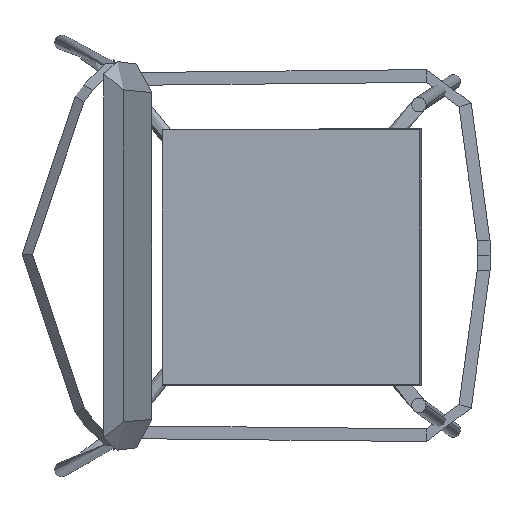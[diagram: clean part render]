
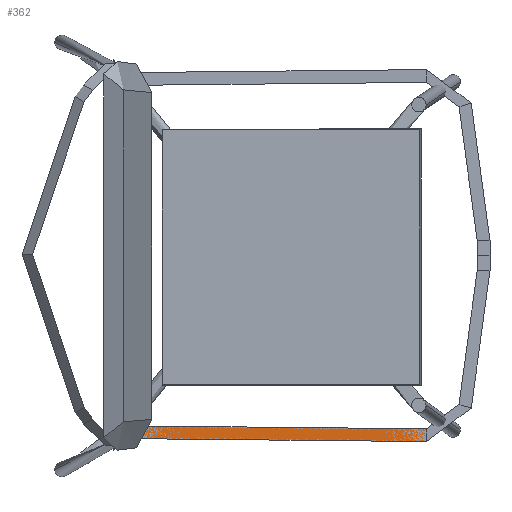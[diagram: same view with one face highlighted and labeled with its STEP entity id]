
A CAD part, top view. The second image highlights one B-rep face of the part: STEP entity #362.
In plain terms, the highlighted free-form (B-spline) face has degree [2, 3] with [5, 4] control points.
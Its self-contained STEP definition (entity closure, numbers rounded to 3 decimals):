
#143=(
BOUNDED_CURVE()
B_SPLINE_CURVE(2,(#10537,#10538,#10539,#10540,#10541),.UNSPECIFIED.,.F.,
 .F.)
B_SPLINE_CURVE_WITH_KNOTS((3,2,3),(0.,12.566,25.133),
 .UNSPECIFIED.)
CURVE()
GEOMETRIC_REPRESENTATION_ITEM()
RATIONAL_B_SPLINE_CURVE((1.,0.707,1.,0.707,1.))
REPRESENTATION_ITEM('')
);
#144=(
BOUNDED_CURVE()
B_SPLINE_CURVE(3,(#10542,#10543,#10544,#10545),.UNSPECIFIED.,.F.,.F.)
B_SPLINE_CURVE_WITH_KNOTS((4,4),(0.,365.279),.UNSPECIFIED.)
CURVE()
GEOMETRIC_REPRESENTATION_ITEM()
RATIONAL_B_SPLINE_CURVE((1.,1.,1.,1.))
REPRESENTATION_ITEM('')
);
#145=(
BOUNDED_CURVE()
B_SPLINE_CURVE(2,(#10546,#10547,#10548,#10549,#10550),.UNSPECIFIED.,.F.,
 .F.)
B_SPLINE_CURVE_WITH_KNOTS((3,2,3),(0.,12.566,25.133),
 .UNSPECIFIED.)
CURVE()
GEOMETRIC_REPRESENTATION_ITEM()
RATIONAL_B_SPLINE_CURVE((1.,0.707,1.,0.707,1.))
REPRESENTATION_ITEM('')
);
#166=(
BOUNDED_CURVE()
B_SPLINE_CURVE(3,(#10820,#10821,#10822,#10823),.UNSPECIFIED.,.F.,.F.)
B_SPLINE_CURVE_WITH_KNOTS((4,4),(0.,365.279),.UNSPECIFIED.)
CURVE()
GEOMETRIC_REPRESENTATION_ITEM()
RATIONAL_B_SPLINE_CURVE((1.,1.,1.,1.))
REPRESENTATION_ITEM('')
);
#254=(
BOUNDED_SURFACE()
B_SPLINE_SURFACE(2,3,((#10230,#10231,#10232,#10233),(#10234,#10235,#10236,
#10237),(#10238,#10239,#10240,#10241),(#10242,#10243,#10244,#10245),(#10246,
#10247,#10248,#10249)),.UNSPECIFIED.,.F.,.F.,.F.)
B_SPLINE_SURFACE_WITH_KNOTS((3,2,3),(4,4),(0.,12.566,25.133),
(0.,365.279),.UNSPECIFIED.)
GEOMETRIC_REPRESENTATION_ITEM()
RATIONAL_B_SPLINE_SURFACE(((1.,1.,1.,1.),(0.707,0.707,
0.707,0.707),(1.,1.,1.,1.),(0.707,0.707,
0.707,0.707),(1.,1.,1.,1.)))
REPRESENTATION_ITEM('')
SURFACE()
);
#362=ADVANCED_FACE('',(#462),#254,.T.);
#462=FACE_OUTER_BOUND('',#570,.T.);
#570=EDGE_LOOP('',(#986,#987,#988,#989));
#986=ORIENTED_EDGE('',*,*,#1233,.T.);
#987=ORIENTED_EDGE('',*,*,#1208,.F.);
#988=ORIENTED_EDGE('',*,*,#1207,.F.);
#989=ORIENTED_EDGE('',*,*,#1206,.T.);
#1206=EDGE_CURVE('',#1457,#1474,#143,.T.);
#1207=EDGE_CURVE('',#1457,#1458,#144,.T.);
#1208=EDGE_CURVE('',#1458,#1475,#145,.T.);
#1233=EDGE_CURVE('',#1474,#1475,#166,.T.);
#1457=VERTEX_POINT('',#10350);
#1458=VERTEX_POINT('',#10351);
#1474=VERTEX_POINT('',#10367);
#1475=VERTEX_POINT('',#10368);
#10230=CARTESIAN_POINT('',(27238.84,9976.489,-683.439));
#10231=CARTESIAN_POINT('',(27360.571,9975.287,-681.126));
#10232=CARTESIAN_POINT('',(27482.303,9974.087,-678.812));
#10233=CARTESIAN_POINT('',(27604.034,9972.886,-676.499));
#10234=CARTESIAN_POINT('',(27238.992,9976.489,-691.438));
#10235=CARTESIAN_POINT('',(27360.723,9975.287,-689.124));
#10236=CARTESIAN_POINT('',(27482.455,9974.087,-686.811));
#10237=CARTESIAN_POINT('',(27604.186,9972.886,-684.498));
#10238=CARTESIAN_POINT('',(27239.071,9984.489,-691.436));
#10239=CARTESIAN_POINT('',(27360.802,9983.287,-689.123));
#10240=CARTESIAN_POINT('',(27482.535,9982.087,-686.809));
#10241=CARTESIAN_POINT('',(27604.266,9980.886,-684.496));
#10242=CARTESIAN_POINT('',(27239.15,9992.489,-691.435));
#10243=CARTESIAN_POINT('',(27360.881,9991.286,-689.121));
#10244=CARTESIAN_POINT('',(27482.615,9990.087,-686.808));
#10245=CARTESIAN_POINT('',(27604.346,9988.886,-684.495));
#10246=CARTESIAN_POINT('',(27238.998,9992.489,-683.436));
#10247=CARTESIAN_POINT('',(27360.729,9991.286,-681.123));
#10248=CARTESIAN_POINT('',(27482.463,9990.087,-678.809));
#10249=CARTESIAN_POINT('',(27604.194,9988.886,-676.496));
#10350=CARTESIAN_POINT('',(27238.84,9976.489,-683.439));
#10351=CARTESIAN_POINT('',(27604.034,9972.886,-676.499));
#10367=CARTESIAN_POINT('',(27238.998,9992.489,-683.436));
#10368=CARTESIAN_POINT('',(27604.194,9988.886,-676.496));
#10537=CARTESIAN_POINT('',(27238.84,9976.489,-683.439));
#10538=CARTESIAN_POINT('',(27238.992,9976.489,-691.438));
#10539=CARTESIAN_POINT('',(27239.071,9984.489,-691.436));
#10540=CARTESIAN_POINT('',(27239.15,9992.489,-691.435));
#10541=CARTESIAN_POINT('',(27238.998,9992.489,-683.436));
#10542=CARTESIAN_POINT('',(27238.84,9976.489,-683.439));
#10543=CARTESIAN_POINT('',(27360.571,9975.287,-681.126));
#10544=CARTESIAN_POINT('',(27482.303,9974.087,-678.812));
#10545=CARTESIAN_POINT('',(27604.034,9972.886,-676.499));
#10546=CARTESIAN_POINT('',(27604.034,9972.886,-676.499));
#10547=CARTESIAN_POINT('',(27604.186,9972.886,-684.498));
#10548=CARTESIAN_POINT('',(27604.266,9980.886,-684.496));
#10549=CARTESIAN_POINT('',(27604.346,9988.886,-684.495));
#10550=CARTESIAN_POINT('',(27604.194,9988.886,-676.496));
#10820=CARTESIAN_POINT('',(27238.998,9992.489,-683.436));
#10821=CARTESIAN_POINT('',(27360.729,9991.286,-681.123));
#10822=CARTESIAN_POINT('',(27482.463,9990.087,-678.809));
#10823=CARTESIAN_POINT('',(27604.194,9988.886,-676.496));
